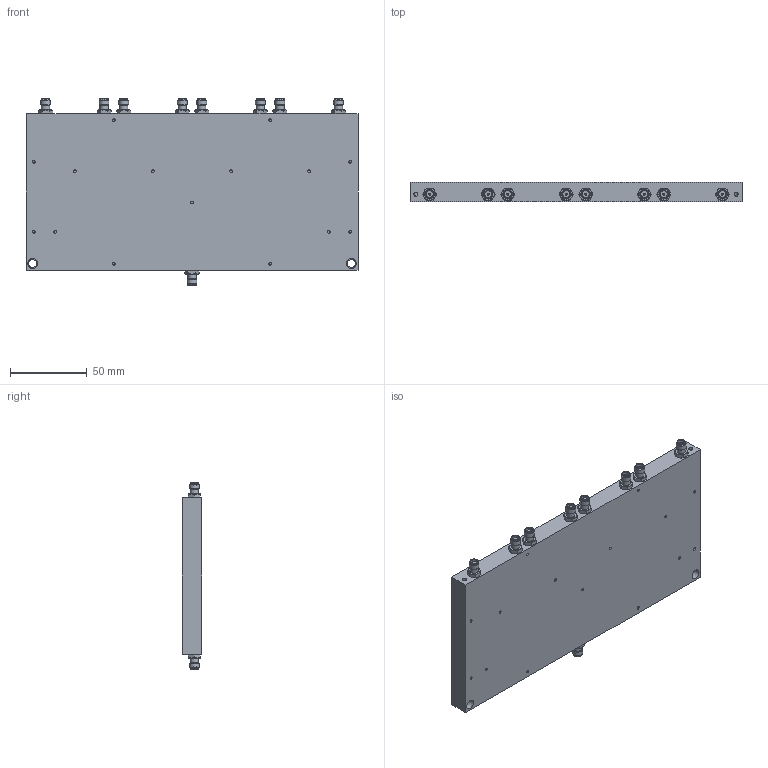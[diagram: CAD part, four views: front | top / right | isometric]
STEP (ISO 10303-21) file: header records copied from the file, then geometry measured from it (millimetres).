
FILE_DESCRIPTION (( 'STEP AP214' ), '1' );
FILE_NAME ('ZC8PD1-10-S+(DE749).STEP', '2020-05-22T15:32:07', ( 'mcl' ), ( 'Microsoft' ), 'SwSTEP 2.0', 'SolidWorks 2016', '' );
FILE_SCHEMA (( 'AUTOMOTIVE_DESIGN' ));
Length unit declared in the file: inch
Products named in the file (1): ZC8PD1-10-S+(DE749)
Bounding box: 215.9 x 12.7 x 121.92 mm (x, y, z)
Volume: 147108 mm3; surface area: 98031.1 mm2
Topology: 1 solids, 18 shells, 646 faces, 1553 edges, 1015 vertices
Faces by surface type: plane 242, cone 236, cylinder 152, sphere 8, torus 8
Full cylindrical faces by diameter (mm): 1.27 x18, 1.778 x15, 2.184 x8, 2.692 x8, 2.705 x2, 4.089 x8, 4.597 x9, 4.877 x8, 5.105 x2, 5.385 x27, 5.41 x9, 6.35 x20
Entity records: 26832 total; most frequent: CARTESIAN_POINT 4417, DIRECTION 2886, ORIENTED_EDGE 2604, EDGE_CURVE 1302, AXIS2_PLACEMENT_3D 1253, EDGE_LOOP 976, VERTEX_POINT 968, FACE_OUTER_BOUND 796
